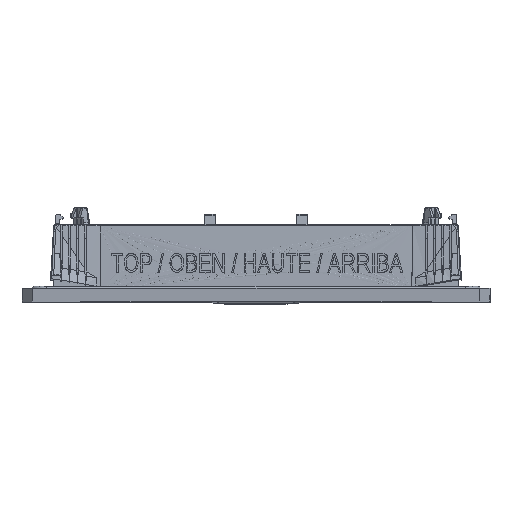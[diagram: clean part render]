
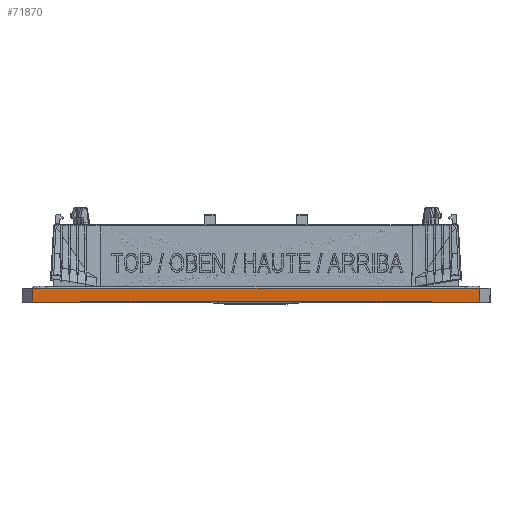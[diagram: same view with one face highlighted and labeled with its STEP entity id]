
A CAD part, top view. The second image highlights one B-rep face of the part: STEP entity #71870.
In plain terms, the highlighted planar face has unit normal (0, 0.073, -0.997).
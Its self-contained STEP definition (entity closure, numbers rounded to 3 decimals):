
#1257 = DIRECTION ( 'NONE',  ( 0., -0.073, 0.997 ) ) ;
#1348 = CARTESIAN_POINT ( 'NONE',  ( 75.796, -2.95, 101.235 ) ) ;
#1506 = DIRECTION ( 'NONE',  ( 0., -0.997, -0.073 ) ) ;
#1676 = DIRECTION ( 'NONE',  ( 1., 0., 0. ) ) ;
#1677 = VECTOR ( 'NONE', #1676, 1000. ) ;
#1679 = LINE ( 'NONE', #1908, #1677 ) ;
#1766 = CARTESIAN_POINT ( 'NONE',  ( 17.618, -2.75, 101.25 ) ) ;
#1908 = CARTESIAN_POINT ( 'NONE',  ( -101.25, -2.75, 101.25 ) ) ;
#2570 = AXIS2_PLACEMENT_3D ( 'NONE', #2774, #1257, #1506 ) ;
#2571 = FACE_OUTER_BOUND ( 'NONE', #71913, .T. ) ;
#2774 = CARTESIAN_POINT ( 'NONE',  ( -101.25, -2.75, 101.25 ) ) ;
#2779 = PLANE ( 'NONE',  #2570 ) ;
#2784 = CARTESIAN_POINT ( 'NONE',  ( -17.618, -2.75, 101.25 ) ) ;
#2790 = CARTESIAN_POINT ( 'NONE',  ( 75.793, -2.75, 101.25 ) ) ;
#3667 = LINE ( 'NONE', #4000, #3976 ) ;
#3817 = LINE ( 'NONE', #3849, #3848 ) ;
#3847 = DIRECTION ( 'NONE',  ( 1., 0., 0. ) ) ;
#3848 = VECTOR ( 'NONE', #3847, 1000. ) ;
#3849 = CARTESIAN_POINT ( 'NONE',  ( -101.25, -2.75, 101.25 ) ) ;
#3976 = VECTOR ( 'NONE', #3977, 1000. ) ;
#3977 = DIRECTION ( 'NONE',  ( -1., 0., 0. ) ) ;
#3990 = CARTESIAN_POINT ( 'NONE',  ( 75.793, -2.75, 101.25 ) ) ;
#3991 = LINE ( 'NONE', #3990, #4047 ) ;
#4000 = CARTESIAN_POINT ( 'NONE',  ( -101.25, 3., 101.672 ) ) ;
#4028 = CARTESIAN_POINT ( 'NONE',  ( -75.793, -2.75, 101.25 ) ) ;
#4046 = DIRECTION ( 'NONE',  ( 0.013, -0.997, -0.073 ) ) ;
#4047 = VECTOR ( 'NONE', #4046, 1000. ) ;
#4107 = CARTESIAN_POINT ( 'NONE',  ( -75.796, -2.95, 101.235 ) ) ;
#4164 = CARTESIAN_POINT ( 'NONE',  ( -96.744, -2.95, 101.235 ) ) ;
#4181 = CARTESIAN_POINT ( 'NONE',  ( -75.796, -2.95, 101.235 ) ) ;
#4250 = CARTESIAN_POINT ( 'NONE',  ( -96.925, 3., 101.672 ) ) ;
#4418 = VECTOR ( 'NONE', #4460, 1000. ) ;
#4419 = LINE ( 'NONE', #4181, #4418 ) ;
#4460 = DIRECTION ( 'NONE',  ( 0.013, 0.997, 0.073 ) ) ;
#4516 = DIRECTION ( 'NONE',  ( 1., 0., 0. ) ) ;
#4517 = VECTOR ( 'NONE', #4516, 1000. ) ;
#4518 = CARTESIAN_POINT ( 'NONE',  ( -101.25, -2.95, 101.235 ) ) ;
#4520 = LINE ( 'NONE', #4518, #4517 ) ;
#4545 = DIRECTION ( 'NONE',  ( 1., 0., 0. ) ) ;
#4549 = LINE ( 'NONE', #4628, #4558 ) ;
#4558 = VECTOR ( 'NONE', #4545, 1000. ) ;
#4603 = DIRECTION ( 'NONE',  ( 1., 0., 0. ) ) ;
#4604 = VECTOR ( 'NONE', #4603, 1000. ) ;
#4605 = LINE ( 'NONE', #4658, #4604 ) ;
#4610 = CARTESIAN_POINT ( 'NONE',  ( 96.925, 3., 101.672 ) ) ;
#4628 = CARTESIAN_POINT ( 'NONE',  ( -101.25, -2.75, 101.25 ) ) ;
#4649 = CARTESIAN_POINT ( 'NONE',  ( 96.744, -2.95, 101.235 ) ) ;
#4658 = CARTESIAN_POINT ( 'NONE',  ( -101.25, -2.95, 101.235 ) ) ;
#4691 = LINE ( 'NONE', #4707, #4713 ) ;
#4707 = CARTESIAN_POINT ( 'NONE',  ( 96.744, -2.95, 101.235 ) ) ;
#4713 = VECTOR ( 'NONE', #4719, 1000. ) ;
#4719 = DIRECTION ( 'NONE',  ( 0.03, 0.997, 0.073 ) ) ;
#5066 = DIRECTION ( 'NONE',  ( 0.03, -0.997, -0.073 ) ) ;
#5068 = VECTOR ( 'NONE', #5066, 1000. ) ;
#5069 = CARTESIAN_POINT ( 'NONE',  ( -96.925, 3., 101.672 ) ) ;
#5070 = LINE ( 'NONE', #5069, #5068 ) ;
#71640 = VERTEX_POINT ( 'NONE', #1348 ) ;
#71745 = VERTEX_POINT ( 'NONE', #2790 ) ;
#71747 = VERTEX_POINT ( 'NONE', #2784 ) ;
#71777 = VERTEX_POINT ( 'NONE', #1766 ) ;
#71782 = EDGE_CURVE ( 'NONE', #71777, #71745, #1679, .T. ) ;
#71864 = ORIENTED_EDGE ( 'NONE', *, *, #71782, .F. ) ;
#71870 = ADVANCED_FACE ( 'NONE', ( #2571 ), #2779, .F. ) ;
#71874 = ORIENTED_EDGE ( 'NONE', *, *, #71971, .F. ) ;
#71913 = EDGE_LOOP ( 'NONE', ( #71874, #71864, #71953, #72182, #72018, #71954, #72137, #72071, #72183, #72027 ) ) ;
#71916 = EDGE_CURVE ( 'NONE', #71984, #71747, #3817, .T. ) ;
#71953 = ORIENTED_EDGE ( 'NONE', *, *, #72103, .F. ) ;
#71954 = ORIENTED_EDGE ( 'NONE', *, *, #72019, .F. ) ;
#71971 = EDGE_CURVE ( 'NONE', #71745, #71640, #3991, .T. ) ;
#71984 = VERTEX_POINT ( 'NONE', #4028 ) ;
#72010 = VERTEX_POINT ( 'NONE', #4164 ) ;
#72016 = EDGE_CURVE ( 'NONE', #72051, #71984, #4419, .T. ) ;
#72018 = ORIENTED_EDGE ( 'NONE', *, *, #72016, .F. ) ;
#72019 = EDGE_CURVE ( 'NONE', #72010, #72051, #4520, .T. ) ;
#72027 = ORIENTED_EDGE ( 'NONE', *, *, #72150, .F. ) ;
#72051 = VERTEX_POINT ( 'NONE', #4107 ) ;
#72071 = ORIENTED_EDGE ( 'NONE', *, *, #72181, .F. ) ;
#72084 = VERTEX_POINT ( 'NONE', #4250 ) ;
#72103 = EDGE_CURVE ( 'NONE', #71747, #71777, #4549, .T. ) ;
#72104 = VERTEX_POINT ( 'NONE', #4649 ) ;
#72135 = VERTEX_POINT ( 'NONE', #4610 ) ;
#72137 = ORIENTED_EDGE ( 'NONE', *, *, #72184, .F. ) ;
#72150 = EDGE_CURVE ( 'NONE', #71640, #72104, #4605, .T. ) ;
#72172 = EDGE_CURVE ( 'NONE', #72104, #72135, #4691, .T. ) ;
#72181 = EDGE_CURVE ( 'NONE', #72135, #72084, #3667, .T. ) ;
#72182 = ORIENTED_EDGE ( 'NONE', *, *, #71916, .F. ) ;
#72183 = ORIENTED_EDGE ( 'NONE', *, *, #72172, .F. ) ;
#72184 = EDGE_CURVE ( 'NONE', #72084, #72010, #5070, .T. ) ;
